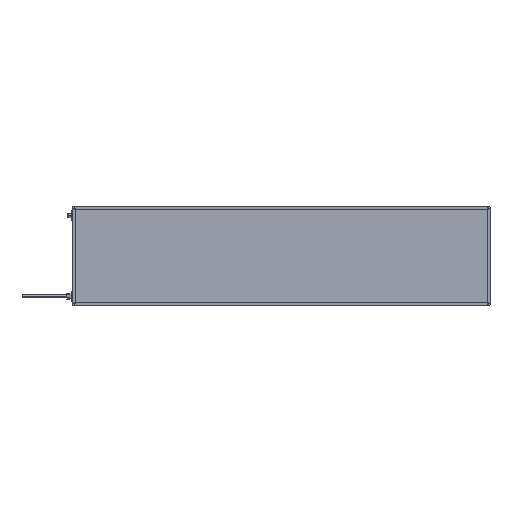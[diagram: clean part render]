
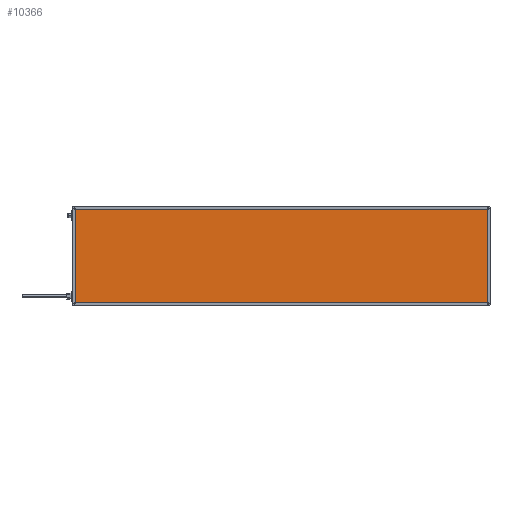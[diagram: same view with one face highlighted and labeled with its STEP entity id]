
A CAD part, top view. The second image highlights one B-rep face of the part: STEP entity #10366.
In plain terms, the highlighted planar face has unit normal (0, 0, 1).
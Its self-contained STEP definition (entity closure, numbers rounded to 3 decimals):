
#593 = PLANE ( 'NONE',  #11684 ) ;
#656 = VECTOR ( 'NONE', #6111, 1000. ) ;
#906 = ORIENTED_EDGE ( 'NONE', *, *, #2728, .T. ) ;
#1779 = VERTEX_POINT ( 'NONE', #5182 ) ;
#2617 = EDGE_CURVE ( 'NONE', #12487, #1779, #9597, .T. ) ;
#2728 = EDGE_CURVE ( 'NONE', #8093, #8966, #3367, .T. ) ;
#3067 = CARTESIAN_POINT ( 'NONE',  ( 1296., 0., 41.85 ) ) ;
#3367 = LINE ( 'NONE', #8857, #13945 ) ;
#4743 = DIRECTION ( 'NONE',  ( 1., 0., 0. ) ) ;
#4787 = DIRECTION ( 'NONE',  ( -1., 0., 0. ) ) ;
#5182 = CARTESIAN_POINT ( 'NONE',  ( 4., 296., 41.85 ) ) ;
#5920 = CARTESIAN_POINT ( 'NONE',  ( 1296., 4., 41.85 ) ) ;
#6111 = DIRECTION ( 'NONE',  ( 0., -1., 0. ) ) ;
#6204 = LINE ( 'NONE', #7479, #656 ) ;
#6328 = DIRECTION ( 'NONE',  ( 0., 0., -1. ) ) ;
#6853 = EDGE_CURVE ( 'NONE', #8966, #12487, #11364, .T. ) ;
#7138 = CARTESIAN_POINT ( 'NONE',  ( 1296., 296., 41.85 ) ) ;
#7479 = CARTESIAN_POINT ( 'NONE',  ( 4., 0., 41.85 ) ) ;
#8093 = VERTEX_POINT ( 'NONE', #17740 ) ;
#8857 = CARTESIAN_POINT ( 'NONE',  ( 0., 4., 41.85 ) ) ;
#8966 = VERTEX_POINT ( 'NONE', #5920 ) ;
#9597 = LINE ( 'NONE', #14155, #15744 ) ;
#10366 = ADVANCED_FACE ( 'NONE', ( #11887 ), #593, .F. ) ;
#11364 = LINE ( 'NONE', #3067, #14341 ) ;
#11684 = AXIS2_PLACEMENT_3D ( 'NONE', #13266, #6328, #4787 ) ;
#11731 = EDGE_CURVE ( 'NONE', #1779, #8093, #6204, .T. ) ;
#11887 = FACE_OUTER_BOUND ( 'NONE', #16716, .T. ) ;
#11922 = ORIENTED_EDGE ( 'NONE', *, *, #2617, .T. ) ;
#12487 = VERTEX_POINT ( 'NONE', #7138 ) ;
#13266 = CARTESIAN_POINT ( 'NONE',  ( 0., 0., 41.85 ) ) ;
#13373 = ORIENTED_EDGE ( 'NONE', *, *, #6853, .T. ) ;
#13945 = VECTOR ( 'NONE', #4743, 1000. ) ;
#14070 = DIRECTION ( 'NONE',  ( -1., 0., 0. ) ) ;
#14155 = CARTESIAN_POINT ( 'NONE',  ( 0., 296., 41.85 ) ) ;
#14341 = VECTOR ( 'NONE', #17023, 1000. ) ;
#15744 = VECTOR ( 'NONE', #14070, 1000. ) ;
#16716 = EDGE_LOOP ( 'NONE', ( #13373, #11922, #17488, #906 ) ) ;
#17023 = DIRECTION ( 'NONE',  ( 0., 1., 0. ) ) ;
#17488 = ORIENTED_EDGE ( 'NONE', *, *, #11731, .T. ) ;
#17740 = CARTESIAN_POINT ( 'NONE',  ( 4., 4., 41.85 ) ) ;
